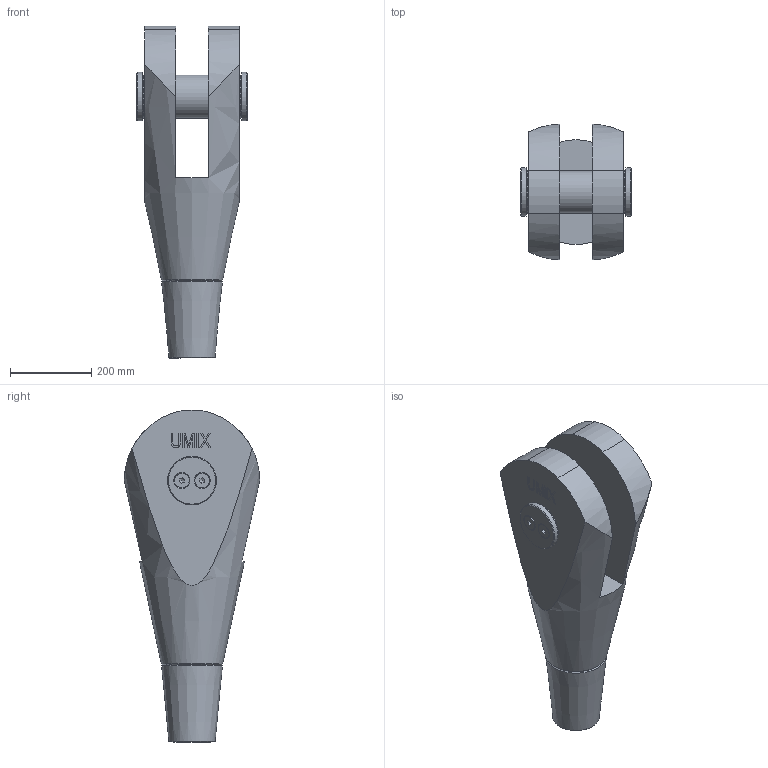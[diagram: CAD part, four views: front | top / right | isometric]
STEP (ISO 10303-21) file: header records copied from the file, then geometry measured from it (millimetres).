
FILE_DESCRIPTION(/* description */ (''),/* implementation_level */ '2;1');
FILE_NAME(/* name */ 'C:\Vault_WS\Designs\520-100-GAK.stp',/* time_stamp */ '2020-06-25T08:06:45+02:00',/* author */ ('schwarz'),/* organization */ (''),/* preprocessor_version */ 'ST-DEVELOPER v16.1',/* originating_system */ 'Autodesk Inventor 2016',/* authorisation */ '');
FILE_SCHEMA (('AUTOMOTIVE_DESIGN { 1 0 10303 214 3 1 1 }'));
Length unit declared in the file: centimetre
Products named in the file (1): 520-100-GAK-KMU-Kunde
Bounding box: 275 x 333.1 x 816.6 mm (x, y, z)
Volume: 25272499.8 mm3; surface area: 992209.2 mm2
Topology: 2 solids, 10 shells, 241 faces, 617 edges, 408 vertices
Faces by surface type: plane 163, cone 29, cylinder 28, bspline 21
Full cylindrical faces by diameter (mm): 17.294 x4, 20 x4, 22 x4, 36.05 x4, 103 x1, 106 x1, 109 x2, 120 x2
Entity records: 7104 total; most frequent: CARTESIAN_POINT 1531, ORIENTED_EDGE 1070, DIRECTION 976, EDGE_CURVE 535, LINE 384, VECTOR 384, VERTEX_POINT 377, EDGE_LOOP 316
